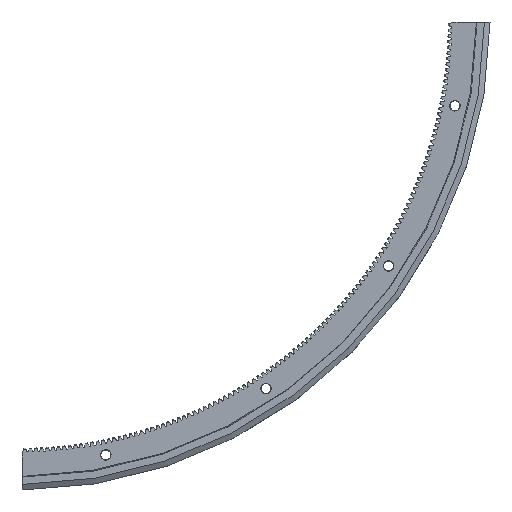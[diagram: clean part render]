
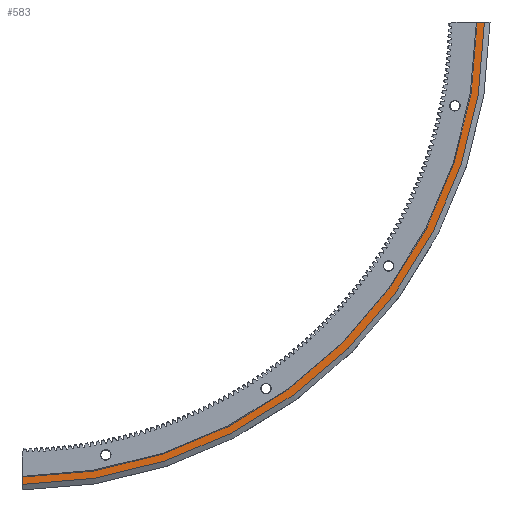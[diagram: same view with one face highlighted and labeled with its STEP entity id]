
A CAD part, front view. The second image highlights one B-rep face of the part: STEP entity #583.
In plain terms, the highlighted planar face has unit normal (0, -1, 0).
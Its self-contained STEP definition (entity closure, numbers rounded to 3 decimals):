
#583 = ADVANCED_FACE( '', ( #1736 ), #1737, .T. );
#1736 = FACE_OUTER_BOUND( '', #3008, .T. );
#1737 = PLANE( '', #3009 );
#3008 = EDGE_LOOP( '', ( #7493, #7494, #7495, #7496 ) );
#3009 = AXIS2_PLACEMENT_3D( '', #7497, #7498, #7499 );
#7493 = ORIENTED_EDGE( '', *, *, #9995, .T. );
#7494 = ORIENTED_EDGE( '', *, *, #10512, .T. );
#7495 = ORIENTED_EDGE( '', *, *, #10513, .F. );
#7496 = ORIENTED_EDGE( '', *, *, #9988, .T. );
#7497 = CARTESIAN_POINT( '', ( 0., 9.5, -318.15 ) );
#7498 = DIRECTION( '', ( 0., -1., 0. ) );
#7499 = DIRECTION( '', ( 0., 0., -1. ) );
#9988 = EDGE_CURVE( '', #13023, #13021, #13024, .T. );
#9995 = EDGE_CURVE( '', #13021, #13034, #13036, .T. );
#10512 = EDGE_CURVE( '', #13034, #13579, #13580, .T. );
#10513 = EDGE_CURVE( '', #13023, #13579, #13581, .T. );
#13021 = VERTEX_POINT( '', #17772 );
#13023 = VERTEX_POINT( '', #17777 );
#13024 = LINE( '', #17778, #17779 );
#13034 = VERTEX_POINT( '', #17795 );
#13036 = CIRCLE( '', #17800, 323.836 );
#13579 = VERTEX_POINT( '', #18360 );
#13580 = LINE( '', #18361, #18362 );
#13581 = CIRCLE( '', #18363, 318.15 );
#17772 = CARTESIAN_POINT( '', ( 2., 9.5, -323.829 ) );
#17777 = CARTESIAN_POINT( '', ( 2., 9.5, -318.144 ) );
#17778 = CARTESIAN_POINT( '', ( 2., 9.5, -318.15 ) );
#17779 = VECTOR( '', #19441, 1000. );
#17795 = CARTESIAN_POINT( '', ( 323.829, 9.5, -2. ) );
#17800 = AXIS2_PLACEMENT_3D( '', #19448, #19449, #19450 );
#18360 = CARTESIAN_POINT( '', ( 318.144, 9.5, -2. ) );
#18361 = CARTESIAN_POINT( '', ( 0., 9.5, -2. ) );
#18362 = VECTOR( '', #20986, 1000. );
#18363 = AXIS2_PLACEMENT_3D( '', #20987, #20988, #20989 );
#19441 = DIRECTION( '', ( 0., 0., -1. ) );
#19448 = CARTESIAN_POINT( '', ( 0., 9.5, 0. ) );
#19449 = DIRECTION( '', ( 0., -1., 0. ) );
#19450 = DIRECTION( '', ( 0., 0., -1. ) );
#20986 = DIRECTION( '', ( -1., 0., 0. ) );
#20987 = CARTESIAN_POINT( '', ( 0., 9.5, 0. ) );
#20988 = DIRECTION( '', ( 0., -1., 0. ) );
#20989 = DIRECTION( '', ( 0., 0., -1. ) );
